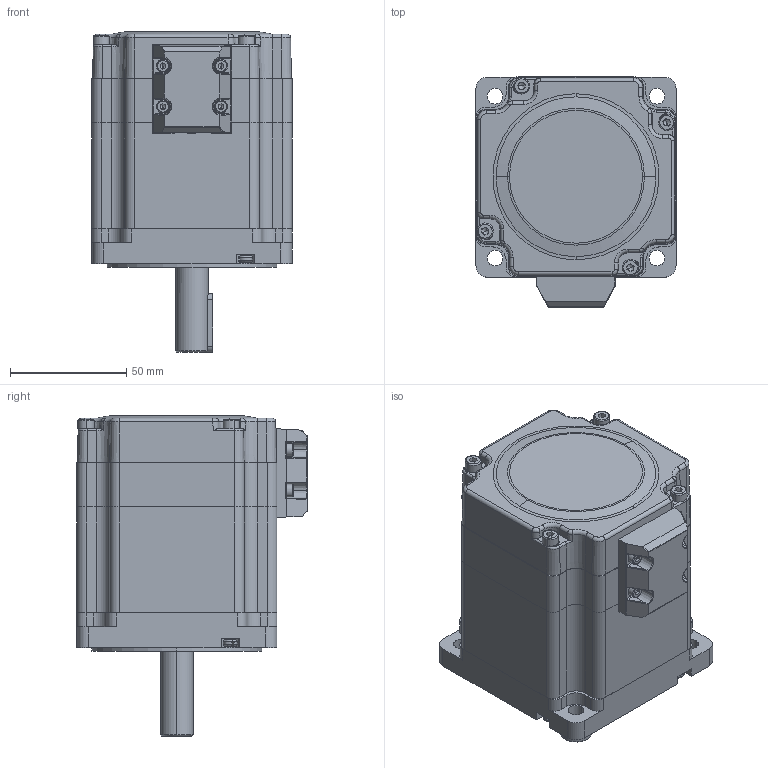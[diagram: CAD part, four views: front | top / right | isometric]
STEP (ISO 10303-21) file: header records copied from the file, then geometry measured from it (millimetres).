
FILE_DESCRIPTION (( 'STEP AP203' ), '1' );
FILE_NAME ('86J1880EC-1000-LS-14K.STEP', '2019-09-26T08:48:21', ( 'USER-' ), ( 'MS' ), 'SwSTEP 2.0', 'SolidWorks 2015', '' );
FILE_SCHEMA (( 'CONFIG_CONTROL_DESIGN' ));
Length unit declared in the file: millimetre
Products named in the file (11): 86萇儂揤盄邡; hexagon socket head cap screws gb_GB_FASTENER_SCREWS_HSHCS M3X10-S; hexagon socket head cap screws gb_GB_FASTENER_SCREWS_HSHCS M4X40-S; 蹟佪芛_1; 86奻裔-73楊擘 14笢陑謂; Dia14x60x5键 轴; 儂旯; 86 25mmkey; 綴裔; 86J1880EC-1000-LS-14K; 86LS綴傷裔
Assembly tree (19 placements, depth 2):
  86J1880EC-1000-LS-14K
    儂旯
    綴裔
    86LS綴傷裔
    86萇儂揤盄邡
    hexagon socket head cap screws gb_GB_FASTENER_SCREWS_HSHCS M3X10-S  x4
    hexagon socket head cap screws gb_GB_FASTENER_SCREWS_HSHCS M4X40-S  x4
    蹟佪芛_1  x4
    86奻裔-73楊擘 14笢陑謂
    Dia14x60x5键 轴
    86 25mmkey
Bounding box: 86 x 99 x 137.57 mm (x, y, z)
Volume: 587325.6 mm3; surface area: 112792.7 mm2
Topology: 19 solids, 19 shells, 2689 faces, 6104 edges, 3459 vertices
Faces by surface type: cone 1304, cylinder 881, plane 347, bspline 99, torus 44, sphere 14
Entity records: 39735 total; most frequent: CARTESIAN_POINT 12989, DIRECTION 5416, ORIENTED_EDGE 5280, EDGE_CURVE 2640, AXIS2_PLACEMENT_3D 2106, VERTEX_POINT 1563, LINE 1204, VECTOR 1204
